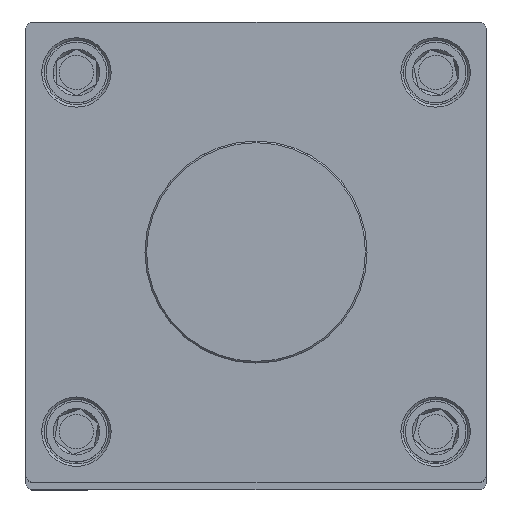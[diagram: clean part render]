
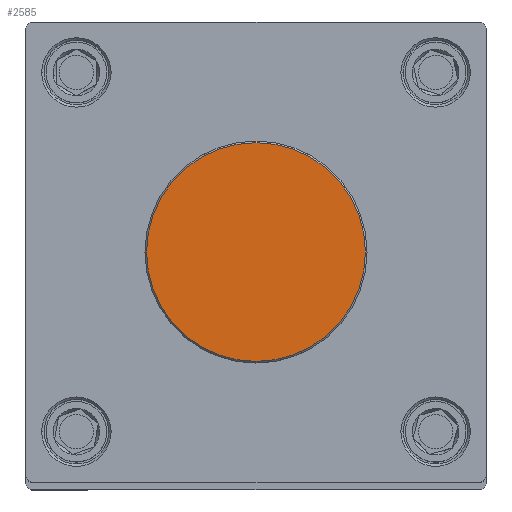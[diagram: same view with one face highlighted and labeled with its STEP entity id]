
A CAD part, top view. The second image highlights one B-rep face of the part: STEP entity #2585.
In plain terms, the highlighted planar face has unit normal (0, 0, 1).
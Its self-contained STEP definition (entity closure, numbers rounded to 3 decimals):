
#786 = ORIENTED_EDGE ( 'NONE', *, *, #1880, .F. ) ;
#1260 = AXIS2_PLACEMENT_3D ( 'NONE', #2535, #2528, #2525 ) ;
#1848 = CIRCLE ( 'NONE', #7984, 27.1 ) ;
#1880 = EDGE_CURVE ( 'NONE', #7532, #2529, #9096, .T. ) ;
#2525 = DIRECTION ( 'NONE',  ( 0., 1., 0. ) ) ;
#2528 = DIRECTION ( 'NONE',  ( 0., 0., -1. ) ) ;
#2529 = VERTEX_POINT ( 'NONE', #5017 ) ;
#2535 = CARTESIAN_POINT ( 'NONE',  ( 0., 0., 42. ) ) ;
#2585 = ADVANCED_FACE ( 'NONE', ( #8670 ), #5960, .T. ) ;
#3728 = EDGE_LOOP ( 'NONE', ( #786, #4514 ) ) ;
#4514 = ORIENTED_EDGE ( 'NONE', *, *, #7427, .F. ) ;
#5017 = CARTESIAN_POINT ( 'NONE',  ( 0., -27.1, 42. ) ) ;
#5798 = CARTESIAN_POINT ( 'NONE',  ( 0., 27.1, 42. ) ) ;
#5960 = PLANE ( 'NONE',  #6164 ) ;
#6164 = AXIS2_PLACEMENT_3D ( 'NONE', #7074, #9051, #7713 ) ;
#7015 = DIRECTION ( 'NONE',  ( 0., 1., 0. ) ) ;
#7063 = DIRECTION ( 'NONE',  ( 0., 0., -1. ) ) ;
#7072 = CARTESIAN_POINT ( 'NONE',  ( 0., 0., 42. ) ) ;
#7074 = CARTESIAN_POINT ( 'NONE',  ( 0., 27.1, 42. ) ) ;
#7427 = EDGE_CURVE ( 'NONE', #2529, #7532, #1848, .T. ) ;
#7532 = VERTEX_POINT ( 'NONE', #5798 ) ;
#7713 = DIRECTION ( 'NONE',  ( 0., -1., 0. ) ) ;
#7984 = AXIS2_PLACEMENT_3D ( 'NONE', #7072, #7063, #7015 ) ;
#8670 = FACE_OUTER_BOUND ( 'NONE', #3728, .T. ) ;
#9051 = DIRECTION ( 'NONE',  ( 0., 0., 1. ) ) ;
#9096 = CIRCLE ( 'NONE', #1260, 27.1 ) ;
